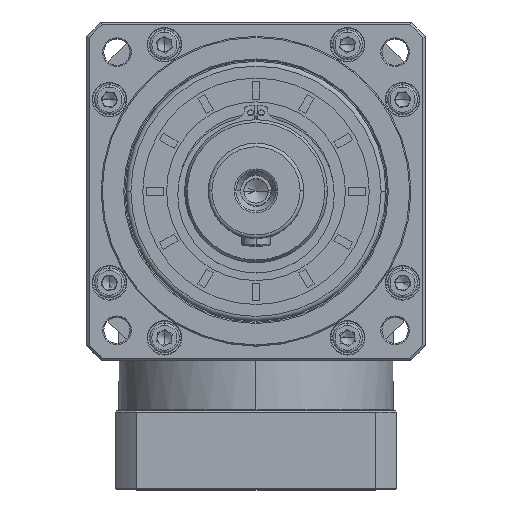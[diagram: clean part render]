
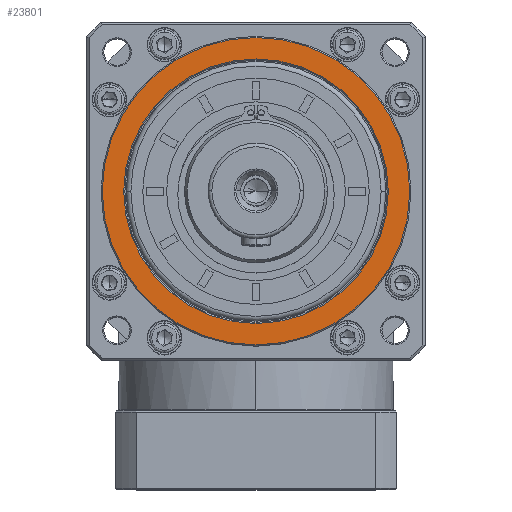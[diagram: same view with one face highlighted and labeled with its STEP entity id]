
A CAD part, top view. The second image highlights one B-rep face of the part: STEP entity #23801.
In plain terms, the highlighted planar face has unit normal (0, 0, 1).
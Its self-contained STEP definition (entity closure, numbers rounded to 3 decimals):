
#4401 = PLANE ( 'NONE',  #22690 ) ;
#4643 = AXIS2_PLACEMENT_3D ( 'NONE', #144037, #157717, #73860 ) ;
#5205 = FACE_BOUND ( 'NONE', #84473, .T. ) ;
#7164 = ORIENTED_EDGE ( 'NONE', *, *, #71784, .F. ) ;
#9756 = AXIS2_PLACEMENT_3D ( 'NONE', #106974, #63540, #164173 ) ;
#18856 = DIRECTION ( 'NONE',  ( 1., 0., 0. ) ) ;
#22690 = AXIS2_PLACEMENT_3D ( 'NONE', #93004, #120891, #161374 ) ;
#23801 = ADVANCED_FACE ( 'NONE', ( #5205, #113920 ), #4401, .T. ) ;
#23871 = CARTESIAN_POINT ( 'NONE',  ( 63.056, 25.225, 374.6 ) ) ;
#27460 = CARTESIAN_POINT ( 'NONE',  ( 127.556, 25.225, 374.6 ) ) ;
#42500 = CARTESIAN_POINT ( 'NONE',  ( 7.556, 25.225, 374.6 ) ) ;
#63540 = DIRECTION ( 'NONE',  ( 0., 0., -1. ) ) ;
#65652 = ORIENTED_EDGE ( 'NONE', *, *, #91148, .F. ) ;
#71784 = EDGE_CURVE ( 'NONE', #145025, #176868, #133453, .T. ) ;
#73860 = DIRECTION ( 'NONE',  ( -1., 0., 0. ) ) ;
#75902 = CARTESIAN_POINT ( 'NONE',  ( 63.056, 25.225, 374.6 ) ) ;
#76773 = VERTEX_POINT ( 'NONE', #42500 ) ;
#82070 = CARTESIAN_POINT ( 'NONE',  ( 118.556, 25.225, 374.6 ) ) ;
#82729 = EDGE_LOOP ( 'NONE', ( #65652, #7164 ) ) ;
#84473 = EDGE_LOOP ( 'NONE', ( #150044, #113453 ) ) ;
#90349 = VERTEX_POINT ( 'NONE', #82070 ) ;
#91148 = EDGE_CURVE ( 'NONE', #176868, #145025, #149702, .T. ) ;
#93004 = CARTESIAN_POINT ( 'NONE',  ( 63.056, 25.225, 374.6 ) ) ;
#93966 = AXIS2_PLACEMENT_3D ( 'NONE', #75902, #119872, #18856 ) ;
#96757 = CARTESIAN_POINT ( 'NONE',  ( -1.444, 25.225, 374.6 ) ) ;
#106974 = CARTESIAN_POINT ( 'NONE',  ( 63.056, 25.225, 374.6 ) ) ;
#113453 = ORIENTED_EDGE ( 'NONE', *, *, #140259, .T. ) ;
#113920 = FACE_OUTER_BOUND ( 'NONE', #82729, .T. ) ;
#117901 = CIRCLE ( 'NONE', #9756, 55.5 ) ;
#119872 = DIRECTION ( 'NONE',  ( 0., 0., -1. ) ) ;
#120891 = DIRECTION ( 'NONE',  ( 0., 0., 1. ) ) ;
#133453 = CIRCLE ( 'NONE', #162646, 64.5 ) ;
#140259 = EDGE_CURVE ( 'NONE', #90349, #76773, #151815, .T. ) ;
#144037 = CARTESIAN_POINT ( 'NONE',  ( 63.056, 25.225, 374.6 ) ) ;
#144372 = EDGE_CURVE ( 'NONE', #76773, #90349, #117901, .T. ) ;
#145025 = VERTEX_POINT ( 'NONE', #96757 ) ;
#149702 = CIRCLE ( 'NONE', #93966, 64.5 ) ;
#150044 = ORIENTED_EDGE ( 'NONE', *, *, #144372, .T. ) ;
#151654 = DIRECTION ( 'NONE',  ( 1., 0., 0. ) ) ;
#151815 = CIRCLE ( 'NONE', #4643, 55.5 ) ;
#154087 = DIRECTION ( 'NONE',  ( 0., 0., -1. ) ) ;
#157717 = DIRECTION ( 'NONE',  ( 0., 0., -1. ) ) ;
#161374 = DIRECTION ( 'NONE',  ( -1., 0., 0. ) ) ;
#162646 = AXIS2_PLACEMENT_3D ( 'NONE', #23871, #154087, #151654 ) ;
#164173 = DIRECTION ( 'NONE',  ( -1., 0., 0. ) ) ;
#176868 = VERTEX_POINT ( 'NONE', #27460 ) ;
